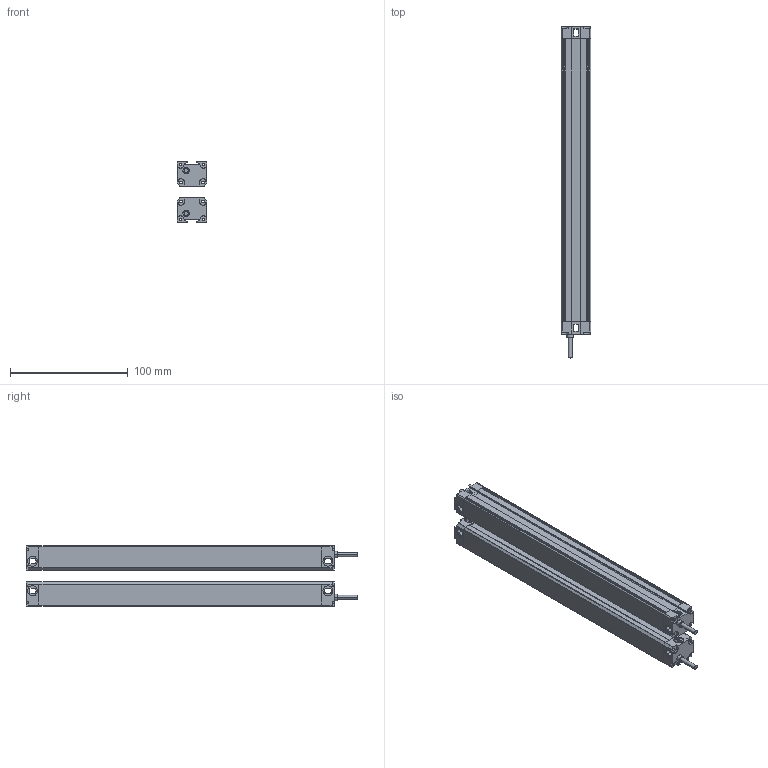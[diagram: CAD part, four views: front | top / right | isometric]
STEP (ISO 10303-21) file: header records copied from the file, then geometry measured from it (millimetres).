
FILE_DESCRIPTION (( 'STEP AP214' ), '1' );
FILE_NAME ('MTC2410.STEP', '2022-12-02T08:08:05', ( '' ), ( '' ), 'SwSTEP 2.0', 'SolidWorks 2018', '' );
FILE_SCHEMA (( 'AUTOMOTIVE_DESIGN' ));
Length unit declared in the file: millimetre
Products named in the file (5): MTC waike^MTC; MTC2410; P01^MTC; 噩砃P02^MTC; P02^MTC
Assembly tree (6 placements, depth 2):
  MTC2410
    MTC waike^MTC  x2
    P01^MTC  x2
    P02^MTC
    噩砃P02^MTC
Bounding box: 25 x 282 x 51.4 mm (x, y, z)
Volume: 93110.2 mm3; surface area: 121494.1 mm2
Topology: 8 solids, 8 shells, 480 faces, 1396 edges, 924 vertices
Faces by surface type: plane 272, cylinder 208
Entity records: 10886 total; most frequent: DIRECTION 1881, CARTESIAN_POINT 1878, ORIENTED_EDGE 1846, EDGE_CURVE 923, AXIS2_PLACEMENT_3D 637, VERTEX_POINT 610, VECTOR 607, LINE 607
